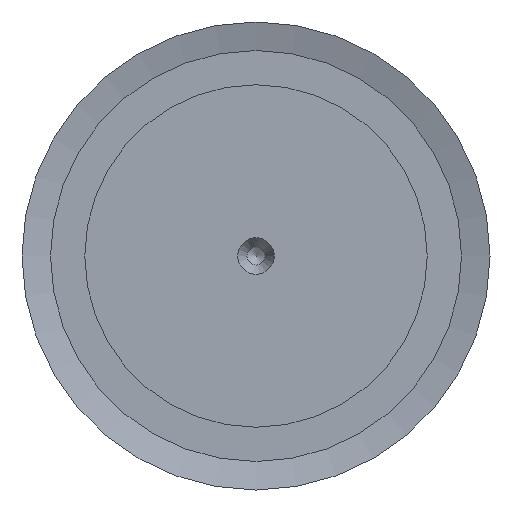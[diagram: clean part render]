
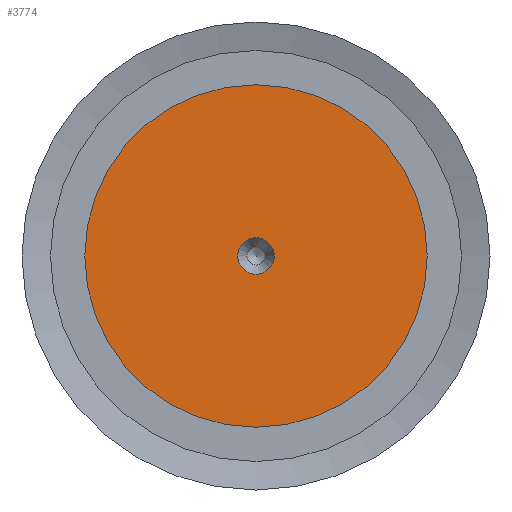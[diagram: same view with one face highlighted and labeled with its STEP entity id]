
A CAD part, left-side view. The second image highlights one B-rep face of the part: STEP entity #3774.
In plain terms, the highlighted planar face has unit normal (-1, 0, 0).
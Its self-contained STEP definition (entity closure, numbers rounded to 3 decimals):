
#40=FACE_BOUND('',#501,.T.);
#113=PLANE('',#4264);
#301=FACE_OUTER_BOUND('',#500,.T.);
#500=EDGE_LOOP('',(#3246));
#501=EDGE_LOOP('',(#3247));
#1391=CIRCLE('',#4263,1.6);
#1392=CIRCLE('',#4265,15.);
#1767=VERTEX_POINT('',#6594);
#1768=VERTEX_POINT('',#6598);
#2321=EDGE_CURVE('',#1767,#1767,#1391,.T.);
#2322=EDGE_CURVE('',#1768,#1768,#1392,.T.);
#3246=ORIENTED_EDGE('',*,*,#2322,.F.);
#3247=ORIENTED_EDGE('',*,*,#2321,.T.);
#3774=ADVANCED_FACE('',(#301,#40),#113,.T.);
#4263=AXIS2_PLACEMENT_3D('',#6596,#5431,#5432);
#4264=AXIS2_PLACEMENT_3D('',#6597,#5433,#5434);
#4265=AXIS2_PLACEMENT_3D('',#6599,#5435,#5436);
#5431=DIRECTION('center_axis',(1.,0.,0.));
#5432=DIRECTION('ref_axis',(0.,0.,-1.));
#5433=DIRECTION('center_axis',(-1.,0.,0.));
#5434=DIRECTION('ref_axis',(0.,0.,1.));
#5435=DIRECTION('center_axis',(1.,0.,0.));
#5436=DIRECTION('ref_axis',(0.,0.,-1.));
#6594=CARTESIAN_POINT('',(0.,-1.6,0.));
#6596=CARTESIAN_POINT('Origin',(0.,0.,0.));
#6597=CARTESIAN_POINT('Origin',(0.,15.,0.));
#6598=CARTESIAN_POINT('',(0.,-15.,0.));
#6599=CARTESIAN_POINT('Origin',(0.,0.,0.));
